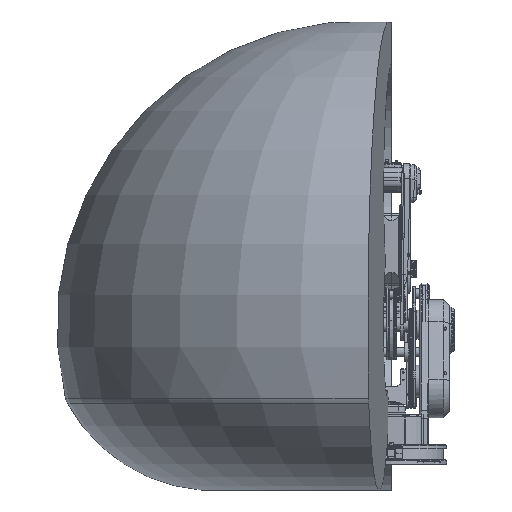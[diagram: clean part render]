
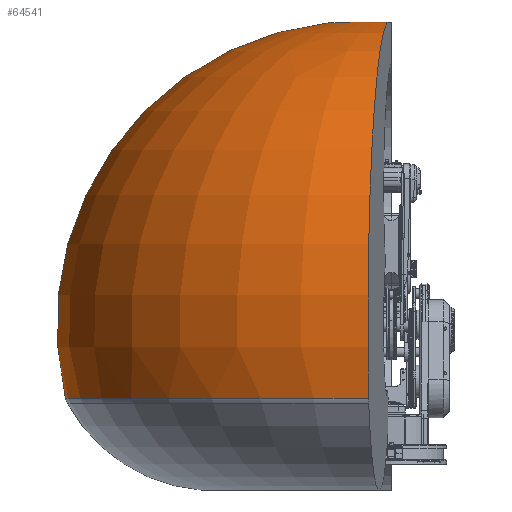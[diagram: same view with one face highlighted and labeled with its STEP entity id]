
A CAD part, left-side view. The second image highlights one B-rep face of the part: STEP entity #64541.
In plain terms, the highlighted toroidal (fillet/blend) face has major radius 109 mm and minor radius 1042.12 mm.
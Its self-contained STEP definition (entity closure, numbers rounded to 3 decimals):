
#8727 = EDGE_CURVE ( 'NONE', #10522, #98616, #132596, .T. ) ;
#9102 = AXIS2_PLACEMENT_3D ( 'NONE', #46567, #96707, #146948 ) ;
#9390 = DIRECTION ( 'NONE',  ( 0., -1., 0. ) ) ;
#10522 = VERTEX_POINT ( 'NONE', #65225 ) ;
#25161 = DIRECTION ( 'NONE',  ( 0., -1., 0. ) ) ;
#32062 = CARTESIAN_POINT ( 'NONE',  ( 36.547, 1518.597, 0. ) ) ;
#32367 = DIRECTION ( 'NONE',  ( 0.07, 0., -0.998 ) ) ;
#34845 = DIRECTION ( 'NONE',  ( 0., 0., -1. ) ) ;
#42452 = DIRECTION ( 'NONE',  ( 0., 0., 1. ) ) ;
#46567 = CARTESIAN_POINT ( 'NONE',  ( 0., 1518.597, 0. ) ) ;
#58028 = CARTESIAN_POINT ( 'NONE',  ( 109., 479., 0. ) ) ;
#64541 = ADVANCED_FACE ( 'NONE', ( #100519 ), #91478, .T. ) ;
#65225 = CARTESIAN_POINT ( 'NONE',  ( -36.458, 1518.597, -2.549 ) ) ;
#71846 = CARTESIAN_POINT ( 'NONE',  ( 0., 479., 0. ) ) ;
#74172 = AXIS2_PLACEMENT_3D ( 'NONE', #99960, #25161, #75288 ) ;
#74971 = ORIENTED_EDGE ( 'NONE', *, *, #83257, .T. ) ;
#75288 = DIRECTION ( 'NONE',  ( 0., 0., -1. ) ) ;
#77703 = ORIENTED_EDGE ( 'NONE', *, *, #125807, .F. ) ;
#80016 = VERTEX_POINT ( 'NONE', #99123 ) ;
#81687 = CIRCLE ( 'NONE', #147353, 1042.119 ) ;
#83257 = EDGE_CURVE ( 'NONE', #80016, #10522, #134877, .T. ) ;
#91478 = TOROIDAL_SURFACE ( 'NONE', #133588, 109., 1042.119 ) ;
#92669 = EDGE_LOOP ( 'NONE', ( #116866, #77703, #138919, #74971 ) ) ;
#96036 = EDGE_CURVE ( 'NONE', #80016, #102811, #155698, .T. ) ;
#96707 = DIRECTION ( 'NONE',  ( 0., -1., 0. ) ) ;
#98616 = VERTEX_POINT ( 'NONE', #32062 ) ;
#99123 = CARTESIAN_POINT ( 'NONE',  ( -1117.376, 226.653, -78.135 ) ) ;
#99960 = CARTESIAN_POINT ( 'NONE',  ( 0., 226.653, 0. ) ) ;
#100519 = FACE_OUTER_BOUND ( 'NONE', #92669, .T. ) ;
#102811 = VERTEX_POINT ( 'NONE', #110918 ) ;
#110918 = CARTESIAN_POINT ( 'NONE',  ( 1120.105, 226.653, 0. ) ) ;
#116866 = ORIENTED_EDGE ( 'NONE', *, *, #8727, .T. ) ;
#119760 = DIRECTION ( 'NONE',  ( 1., 0., 0. ) ) ;
#121734 = AXIS2_PLACEMENT_3D ( 'NONE', #145074, #32367, #132718 ) ;
#125807 = EDGE_CURVE ( 'NONE', #102811, #98616, #81687, .T. ) ;
#132596 = CIRCLE ( 'NONE', #9102, 36.547 ) ;
#132718 = DIRECTION ( 'NONE',  ( -0.998, 0., -0.07 ) ) ;
#133588 = AXIS2_PLACEMENT_3D ( 'NONE', #71846, #9390, #34845 ) ;
#134877 = CIRCLE ( 'NONE', #121734, 1042.119 ) ;
#138919 = ORIENTED_EDGE ( 'NONE', *, *, #96036, .F. ) ;
#145074 = CARTESIAN_POINT ( 'NONE',  ( -108.734, 479., -7.603 ) ) ;
#146948 = DIRECTION ( 'NONE',  ( 0., 0., -1. ) ) ;
#147353 = AXIS2_PLACEMENT_3D ( 'NONE', #58028, #42452, #119760 ) ;
#155698 = CIRCLE ( 'NONE', #74172, 1120.105 ) ;
